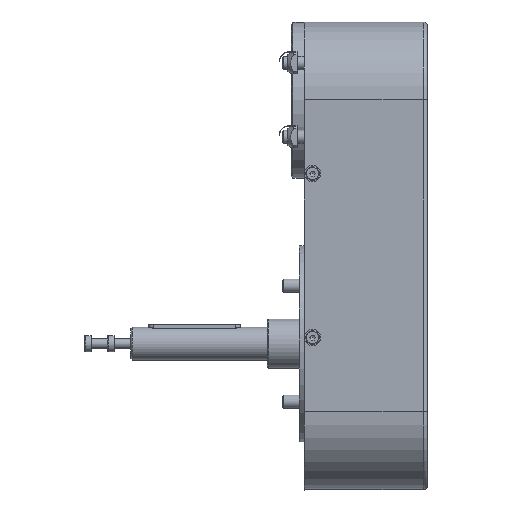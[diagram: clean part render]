
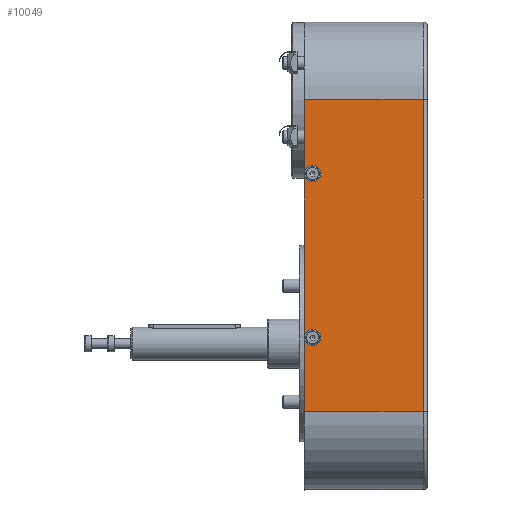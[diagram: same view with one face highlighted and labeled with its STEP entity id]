
A CAD part, top view. The second image highlights one B-rep face of the part: STEP entity #10049.
In plain terms, the highlighted planar face has unit normal (0, 0, 1).
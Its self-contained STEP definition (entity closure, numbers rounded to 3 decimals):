
#360=FACE_BOUND('',#1345,.T.);
#361=FACE_BOUND('',#1346,.T.);
#467=PLANE('',#11124);
#801=FACE_OUTER_BOUND('',#1344,.T.);
#1344=EDGE_LOOP('',(#6740,#6741,#6742,#6743));
#1345=EDGE_LOOP('',(#6744));
#1346=EDGE_LOOP('',(#6745));
#1984=LINE('',#15283,#2889);
#1991=LINE('',#15311,#2896);
#1992=LINE('',#15314,#2897);
#1993=LINE('',#15315,#2898);
#2889=VECTOR('',#12229,72.5);
#2896=VECTOR('',#12266,190.);
#2897=VECTOR('',#12269,190.);
#2898=VECTOR('',#12270,72.5);
#3783=CIRCLE('',#11081,3.);
#3785=CIRCLE('',#11084,3.);
#4252=VERTEX_POINT('',#15220);
#4254=VERTEX_POINT('',#15226);
#4272=VERTEX_POINT('',#15273);
#4275=VERTEX_POINT('',#15281);
#4281=VERTEX_POINT('',#15299);
#4282=VERTEX_POINT('',#15313);
#5224=EDGE_CURVE('',#4252,#4252,#3783,.T.);
#5227=EDGE_CURVE('',#4254,#4254,#3785,.T.);
#5255=EDGE_CURVE('',#4272,#4275,#1984,.T.);
#5269=EDGE_CURVE('',#4272,#4281,#1991,.T.);
#5270=EDGE_CURVE('',#4275,#4282,#1992,.T.);
#5271=EDGE_CURVE('',#4281,#4282,#1993,.T.);
#6740=ORIENTED_EDGE('',*,*,#5269,.F.);
#6741=ORIENTED_EDGE('',*,*,#5255,.T.);
#6742=ORIENTED_EDGE('',*,*,#5270,.T.);
#6743=ORIENTED_EDGE('',*,*,#5271,.F.);
#6744=ORIENTED_EDGE('',*,*,#5224,.T.);
#6745=ORIENTED_EDGE('',*,*,#5227,.T.);
#10049=ADVANCED_FACE('',(#801,#360,#361),#467,.T.);
#11081=AXIS2_PLACEMENT_3D('',#15221,#12162,#12163);
#11084=AXIS2_PLACEMENT_3D('',#15227,#12169,#12170);
#11124=AXIS2_PLACEMENT_3D('',#15312,#12267,#12268);
#12162=DIRECTION('center_axis',(0.,0.,-1.));
#12163=DIRECTION('ref_axis',(1.,0.,0.));
#12169=DIRECTION('center_axis',(0.,0.,-1.));
#12170=DIRECTION('ref_axis',(1.,0.,0.));
#12229=DIRECTION('',(-1.,0.,0.));
#12266=DIRECTION('',(0.,-1.,0.));
#12267=DIRECTION('center_axis',(0.,0.,1.));
#12268=DIRECTION('ref_axis',(1.,0.,0.));
#12269=DIRECTION('',(0.,-1.,0.));
#12270=DIRECTION('',(-1.,0.,0.));
#15220=CARTESIAN_POINT('',(2.,-22.5,243.));
#15221=CARTESIAN_POINT('Origin',(5.,-22.5,243.));
#15226=CARTESIAN_POINT('',(2.,-122.5,243.));
#15227=CARTESIAN_POINT('Origin',(5.,-122.5,243.));
#15273=CARTESIAN_POINT('',(72.5,22.5,243.));
#15281=CARTESIAN_POINT('',(0.,22.5,243.));
#15283=CARTESIAN_POINT('',(72.5,22.5,243.));
#15299=CARTESIAN_POINT('',(72.5,-167.5,243.));
#15311=CARTESIAN_POINT('',(72.5,22.5,243.));
#15312=CARTESIAN_POINT('Origin',(75.,22.5,243.));
#15313=CARTESIAN_POINT('',(0.,-167.5,243.));
#15314=CARTESIAN_POINT('',(0.,22.5,243.));
#15315=CARTESIAN_POINT('',(72.5,-167.5,243.));
